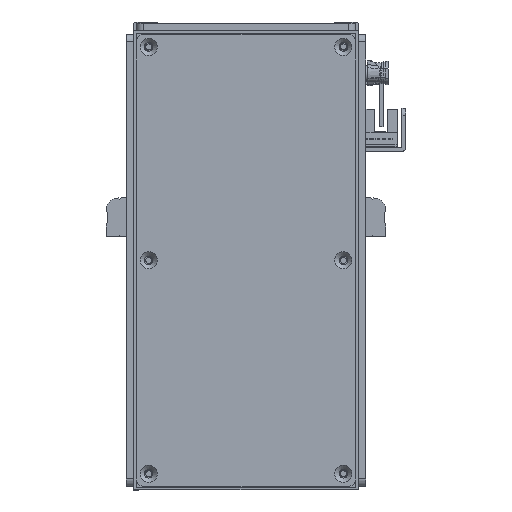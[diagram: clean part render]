
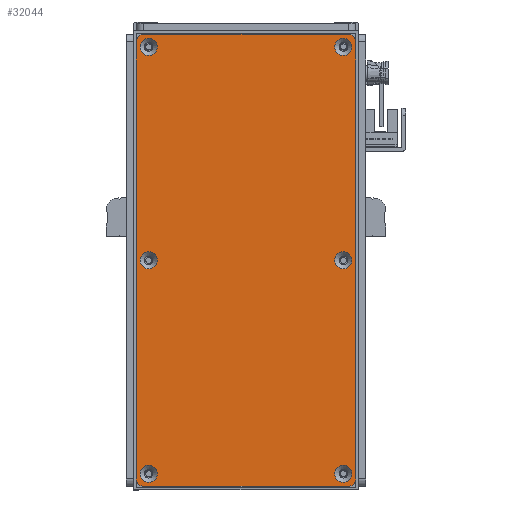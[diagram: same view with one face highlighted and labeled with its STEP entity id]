
A CAD part, front view. The second image highlights one B-rep face of the part: STEP entity #32044.
In plain terms, the highlighted planar face has unit normal (0, -1, 0) as drawn and (0, 0, 1) by its records, which use the part's own axes.
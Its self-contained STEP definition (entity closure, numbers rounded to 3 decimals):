
#4415=FACE_BOUND('',#7816,.T.);
#4416=FACE_BOUND('',#7817,.T.);
#4417=FACE_BOUND('',#7818,.T.);
#4418=FACE_BOUND('',#7819,.T.);
#4419=FACE_BOUND('',#7820,.T.);
#4420=FACE_BOUND('',#7821,.T.);
#5895=FACE_OUTER_BOUND('',#7815,.T.);
#7815=EDGE_LOOP('',(#29200,#29201,#29202,#29203,#29204,#29205,#29206,#29207));
#7816=EDGE_LOOP('',(#29208));
#7817=EDGE_LOOP('',(#29209));
#7818=EDGE_LOOP('',(#29210));
#7819=EDGE_LOOP('',(#29211));
#7820=EDGE_LOOP('',(#29212));
#7821=EDGE_LOOP('',(#29213));
#9377=CIRCLE('',#36134,3.45);
#9380=CIRCLE('',#36139,3.45);
#9383=CIRCLE('',#36144,3.45);
#9386=CIRCLE('',#36149,3.45);
#9389=CIRCLE('',#36154,3.45);
#9392=CIRCLE('',#36159,3.45);
#9399=CIRCLE('',#36169,3.);
#9400=CIRCLE('',#36172,3.);
#9401=CIRCLE('',#36175,3.);
#9402=CIRCLE('',#36178,3.);
#11848=LINE('',#56415,#14407);
#11851=LINE('',#56423,#14410);
#11854=LINE('',#56431,#14413);
#11857=LINE('',#56438,#14416);
#14407=VECTOR('',#44780,10.);
#14410=VECTOR('',#44789,10.);
#14413=VECTOR('',#44798,10.);
#14416=VECTOR('',#44807,10.);
#17161=VERTEX_POINT('',#56331);
#17164=VERTEX_POINT('',#56341);
#17167=VERTEX_POINT('',#56351);
#17170=VERTEX_POINT('',#56361);
#17173=VERTEX_POINT('',#56371);
#17176=VERTEX_POINT('',#56381);
#17187=VERTEX_POINT('',#56408);
#17188=VERTEX_POINT('',#56410);
#17189=VERTEX_POINT('',#56414);
#17190=VERTEX_POINT('',#56418);
#17191=VERTEX_POINT('',#56422);
#17192=VERTEX_POINT('',#56426);
#17193=VERTEX_POINT('',#56430);
#17194=VERTEX_POINT('',#56434);
#21180=EDGE_CURVE('',#17161,#17161,#9377,.T.);
#21185=EDGE_CURVE('',#17164,#17164,#9380,.T.);
#21190=EDGE_CURVE('',#17167,#17167,#9383,.T.);
#21195=EDGE_CURVE('',#17170,#17170,#9386,.T.);
#21200=EDGE_CURVE('',#17173,#17173,#9389,.T.);
#21205=EDGE_CURVE('',#17176,#17176,#9392,.T.);
#21219=EDGE_CURVE('',#17188,#17187,#9399,.T.);
#21221=EDGE_CURVE('',#17189,#17188,#11848,.T.);
#21223=EDGE_CURVE('',#17190,#17189,#9400,.T.);
#21225=EDGE_CURVE('',#17191,#17190,#11851,.T.);
#21227=EDGE_CURVE('',#17192,#17191,#9401,.T.);
#21229=EDGE_CURVE('',#17193,#17192,#11854,.T.);
#21231=EDGE_CURVE('',#17194,#17193,#9402,.T.);
#21233=EDGE_CURVE('',#17187,#17194,#11857,.T.);
#29200=ORIENTED_EDGE('',*,*,#21233,.T.);
#29201=ORIENTED_EDGE('',*,*,#21231,.T.);
#29202=ORIENTED_EDGE('',*,*,#21229,.T.);
#29203=ORIENTED_EDGE('',*,*,#21227,.T.);
#29204=ORIENTED_EDGE('',*,*,#21225,.T.);
#29205=ORIENTED_EDGE('',*,*,#21223,.T.);
#29206=ORIENTED_EDGE('',*,*,#21221,.T.);
#29207=ORIENTED_EDGE('',*,*,#21219,.T.);
#29208=ORIENTED_EDGE('',*,*,#21180,.T.);
#29209=ORIENTED_EDGE('',*,*,#21185,.T.);
#29210=ORIENTED_EDGE('',*,*,#21190,.T.);
#29211=ORIENTED_EDGE('',*,*,#21195,.T.);
#29212=ORIENTED_EDGE('',*,*,#21200,.T.);
#29213=ORIENTED_EDGE('',*,*,#21205,.T.);
#30557=PLANE('',#36180);
#32044=ADVANCED_FACE('',(#5895,#4415,#4416,#4417,#4418,#4419,#4420),#30557,
 .T.);
#36134=AXIS2_PLACEMENT_3D('',#56332,#44688,#44689);
#36139=AXIS2_PLACEMENT_3D('',#56342,#44700,#44701);
#36144=AXIS2_PLACEMENT_3D('',#56352,#44712,#44713);
#36149=AXIS2_PLACEMENT_3D('',#56362,#44724,#44725);
#36154=AXIS2_PLACEMENT_3D('',#56372,#44736,#44737);
#36159=AXIS2_PLACEMENT_3D('',#56382,#44748,#44749);
#36169=AXIS2_PLACEMENT_3D('',#56411,#44775,#44776);
#36172=AXIS2_PLACEMENT_3D('',#56419,#44784,#44785);
#36175=AXIS2_PLACEMENT_3D('',#56427,#44793,#44794);
#36178=AXIS2_PLACEMENT_3D('',#56435,#44802,#44803);
#36180=AXIS2_PLACEMENT_3D('',#56439,#44808,#44809);
#44688=DIRECTION('center_axis',(0.,0.,-1.));
#44689=DIRECTION('ref_axis',(1.,0.,0.));
#44700=DIRECTION('center_axis',(0.,0.,-1.));
#44701=DIRECTION('ref_axis',(1.,0.,0.));
#44712=DIRECTION('center_axis',(0.,0.,-1.));
#44713=DIRECTION('ref_axis',(1.,0.,0.));
#44724=DIRECTION('center_axis',(0.,0.,-1.));
#44725=DIRECTION('ref_axis',(1.,0.,0.));
#44736=DIRECTION('center_axis',(0.,0.,-1.));
#44737=DIRECTION('ref_axis',(1.,0.,0.));
#44748=DIRECTION('center_axis',(0.,0.,-1.));
#44749=DIRECTION('ref_axis',(1.,0.,0.));
#44775=DIRECTION('center_axis',(0.,0.,1.));
#44776=DIRECTION('ref_axis',(0.,1.,0.));
#44780=DIRECTION('',(-1.,0.,0.));
#44784=DIRECTION('center_axis',(0.,0.,1.));
#44785=DIRECTION('ref_axis',(1.,0.,0.));
#44789=DIRECTION('',(0.,1.,0.));
#44793=DIRECTION('center_axis',(0.,0.,1.));
#44794=DIRECTION('ref_axis',(0.,-1.,0.));
#44798=DIRECTION('',(1.,0.,0.));
#44802=DIRECTION('center_axis',(0.,0.,1.));
#44803=DIRECTION('ref_axis',(-1.,0.,0.));
#44807=DIRECTION('',(0.,-1.,0.));
#44808=DIRECTION('center_axis',(0.,0.,1.));
#44809=DIRECTION('ref_axis',(1.,0.,0.));
#56331=CARTESIAN_POINT('',(-3.45,39.,1.5));
#56332=CARTESIAN_POINT('Origin',(0.,39.,1.5));
#56341=CARTESIAN_POINT('',(82.05,-39.,1.5));
#56342=CARTESIAN_POINT('Origin',(85.5,-39.,1.5));
#56351=CARTESIAN_POINT('',(-88.95,39.,1.5));
#56352=CARTESIAN_POINT('Origin',(-85.5,39.,1.5));
#56361=CARTESIAN_POINT('',(82.05,39.,1.5));
#56362=CARTESIAN_POINT('Origin',(85.5,39.,1.5));
#56371=CARTESIAN_POINT('',(-88.95,-39.,1.5));
#56372=CARTESIAN_POINT('Origin',(-85.5,-39.,1.5));
#56381=CARTESIAN_POINT('',(-3.45,-39.,1.5));
#56382=CARTESIAN_POINT('Origin',(0.,-39.,1.5));
#56408=CARTESIAN_POINT('',(-90.5,41.,1.5));
#56410=CARTESIAN_POINT('',(-87.5,44.,1.5));
#56411=CARTESIAN_POINT('Origin',(-87.5,41.,1.5));
#56414=CARTESIAN_POINT('',(87.5,44.,1.5));
#56415=CARTESIAN_POINT('',(87.5,44.,1.5));
#56418=CARTESIAN_POINT('',(90.5,41.,1.5));
#56419=CARTESIAN_POINT('Origin',(87.5,41.,1.5));
#56422=CARTESIAN_POINT('',(90.5,-41.,1.5));
#56423=CARTESIAN_POINT('',(90.5,-41.,1.5));
#56426=CARTESIAN_POINT('',(87.5,-44.,1.5));
#56427=CARTESIAN_POINT('Origin',(87.5,-41.,1.5));
#56430=CARTESIAN_POINT('',(-87.5,-44.,1.5));
#56431=CARTESIAN_POINT('',(-87.5,-44.,1.5));
#56434=CARTESIAN_POINT('',(-90.5,-41.,1.5));
#56435=CARTESIAN_POINT('Origin',(-87.5,-41.,1.5));
#56438=CARTESIAN_POINT('',(-90.5,41.,1.5));
#56439=CARTESIAN_POINT('Origin',(0.,0.,
1.5));
